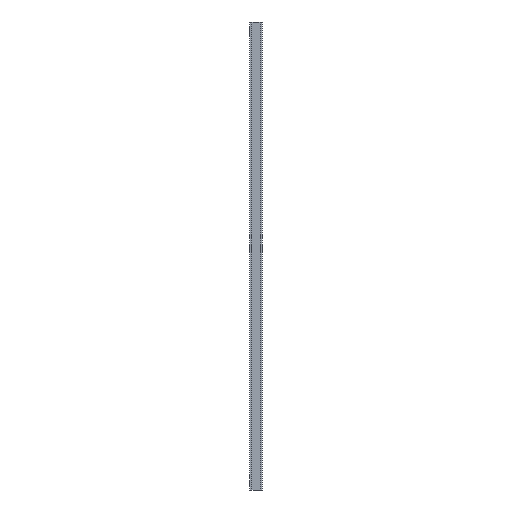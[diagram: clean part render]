
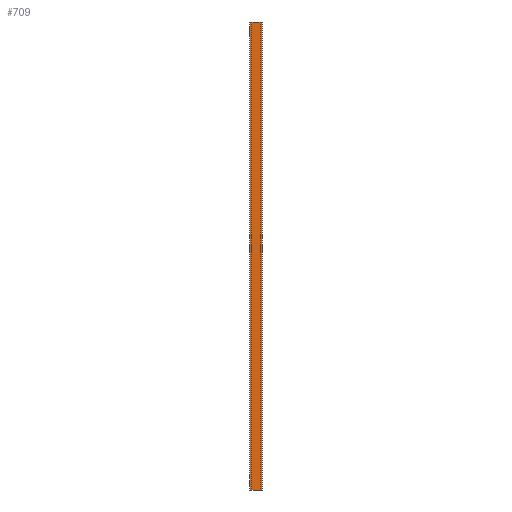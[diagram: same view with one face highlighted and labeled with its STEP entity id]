
A CAD part, left-side view. The second image highlights one B-rep face of the part: STEP entity #709.
In plain terms, the highlighted planar face has unit normal (-1, 0, 0).
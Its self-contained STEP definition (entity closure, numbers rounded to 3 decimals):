
#34 = CARTESIAN_POINT ( 'NONE',  ( -8., 3.2, 0. ) ) ;
#66 = VECTOR ( 'NONE', #1634, 1000. ) ;
#83 = ORIENTED_EDGE ( 'NONE', *, *, #923, .T. ) ;
#109 = CARTESIAN_POINT ( 'NONE',  ( -8., 12.5, 479. ) ) ;
#130 = LINE ( 'NONE', #669, #1651 ) ;
#151 = LINE ( 'NONE', #851, #575 ) ;
#159 = CARTESIAN_POINT ( 'NONE',  ( -8., 9.3, 479. ) ) ;
#167 = EDGE_CURVE ( 'NONE', #1562, #1723, #1512, .T. ) ;
#175 = ORIENTED_EDGE ( 'NONE', *, *, #1168, .F. ) ;
#190 = EDGE_CURVE ( 'NONE', #1723, #400, #1221, .T. ) ;
#218 = ORIENTED_EDGE ( 'NONE', *, *, #1106, .T. ) ;
#351 = VECTOR ( 'NONE', #1762, 1000. ) ;
#386 = VECTOR ( 'NONE', #917, 1000. ) ;
#388 = DIRECTION ( 'NONE',  ( 0., -1., 0. ) ) ;
#392 = ORIENTED_EDGE ( 'NONE', *, *, #190, .F. ) ;
#396 = CARTESIAN_POINT ( 'NONE',  ( -8., 0., 0. ) ) ;
#400 = VERTEX_POINT ( 'NONE', #897 ) ;
#406 = DIRECTION ( 'NONE',  ( 0., 0., -1. ) ) ;
#527 = LINE ( 'NONE', #109, #66 ) ;
#556 = EDGE_LOOP ( 'NONE', ( #1721, #622, #392, #626, #83, #218, #801, #175 ) ) ;
#561 = CARTESIAN_POINT ( 'NONE',  ( -8., 0., 479. ) ) ;
#575 = VECTOR ( 'NONE', #694, 1000. ) ;
#622 = ORIENTED_EDGE ( 'NONE', *, *, #1583, .T. ) ;
#626 = ORIENTED_EDGE ( 'NONE', *, *, #167, .F. ) ;
#642 = LINE ( 'NONE', #1728, #386 ) ;
#663 = VERTEX_POINT ( 'NONE', #1028 ) ;
#669 = CARTESIAN_POINT ( 'NONE',  ( -8., 0., 0. ) ) ;
#694 = DIRECTION ( 'NONE',  ( 0., 1., 0. ) ) ;
#709 = ADVANCED_FACE ( 'NONE', ( #1420 ), #1436, .T. ) ;
#782 = CARTESIAN_POINT ( 'NONE',  ( -8., 12.5, 479. ) ) ;
#801 = ORIENTED_EDGE ( 'NONE', *, *, #1677, .T. ) ;
#851 = CARTESIAN_POINT ( 'NONE',  ( -8., 0., 479. ) ) ;
#889 = CARTESIAN_POINT ( 'NONE',  ( -8., 12.5, 479. ) ) ;
#897 = CARTESIAN_POINT ( 'NONE',  ( -8., 0., 0. ) ) ;
#917 = DIRECTION ( 'NONE',  ( 0., -1., 0. ) ) ;
#923 = EDGE_CURVE ( 'NONE', #1562, #1255, #151, .T. ) ;
#974 = CARTESIAN_POINT ( 'NONE',  ( -8., 0., 479. ) ) ;
#1015 = VERTEX_POINT ( 'NONE', #1100 ) ;
#1028 = CARTESIAN_POINT ( 'NONE',  ( -8., 9.3, 0. ) ) ;
#1030 = AXIS2_PLACEMENT_3D ( 'NONE', #1568, #1175, #1312 ) ;
#1094 = LINE ( 'NONE', #889, #1353 ) ;
#1100 = CARTESIAN_POINT ( 'NONE',  ( -8., 12.5, 0. ) ) ;
#1106 = EDGE_CURVE ( 'NONE', #1255, #1190, #527, .T. ) ;
#1159 = EDGE_CURVE ( 'NONE', #1309, #663, #1456, .T. ) ;
#1168 = EDGE_CURVE ( 'NONE', #663, #1015, #130, .T. ) ;
#1175 = DIRECTION ( 'NONE',  ( -1., 0., 0. ) ) ;
#1190 = VERTEX_POINT ( 'NONE', #782 ) ;
#1221 = LINE ( 'NONE', #1628, #1590 ) ;
#1255 = VERTEX_POINT ( 'NONE', #159 ) ;
#1290 = DIRECTION ( 'NONE',  ( 0., 0., -1. ) ) ;
#1309 = VERTEX_POINT ( 'NONE', #34 ) ;
#1312 = DIRECTION ( 'NONE',  ( 0., 0., 1. ) ) ;
#1332 = CARTESIAN_POINT ( 'NONE',  ( -8., 3.2, 479. ) ) ;
#1353 = VECTOR ( 'NONE', #1290, 1000. ) ;
#1420 = FACE_OUTER_BOUND ( 'NONE', #556, .T. ) ;
#1436 = PLANE ( 'NONE',  #1030 ) ;
#1456 = LINE ( 'NONE', #396, #351 ) ;
#1488 = DIRECTION ( 'NONE',  ( 0., 1., 0. ) ) ;
#1512 = LINE ( 'NONE', #974, #1635 ) ;
#1562 = VERTEX_POINT ( 'NONE', #1332 ) ;
#1568 = CARTESIAN_POINT ( 'NONE',  ( -8., 0., 479. ) ) ;
#1583 = EDGE_CURVE ( 'NONE', #1309, #400, #642, .T. ) ;
#1590 = VECTOR ( 'NONE', #406, 1000. ) ;
#1628 = CARTESIAN_POINT ( 'NONE',  ( -8., 0., 479. ) ) ;
#1634 = DIRECTION ( 'NONE',  ( 0., 1., 0. ) ) ;
#1635 = VECTOR ( 'NONE', #388, 1000. ) ;
#1651 = VECTOR ( 'NONE', #1488, 1000. ) ;
#1677 = EDGE_CURVE ( 'NONE', #1190, #1015, #1094, .T. ) ;
#1721 = ORIENTED_EDGE ( 'NONE', *, *, #1159, .F. ) ;
#1723 = VERTEX_POINT ( 'NONE', #561 ) ;
#1728 = CARTESIAN_POINT ( 'NONE',  ( -8., 0., 0. ) ) ;
#1762 = DIRECTION ( 'NONE',  ( 0., 1., 0. ) ) ;
